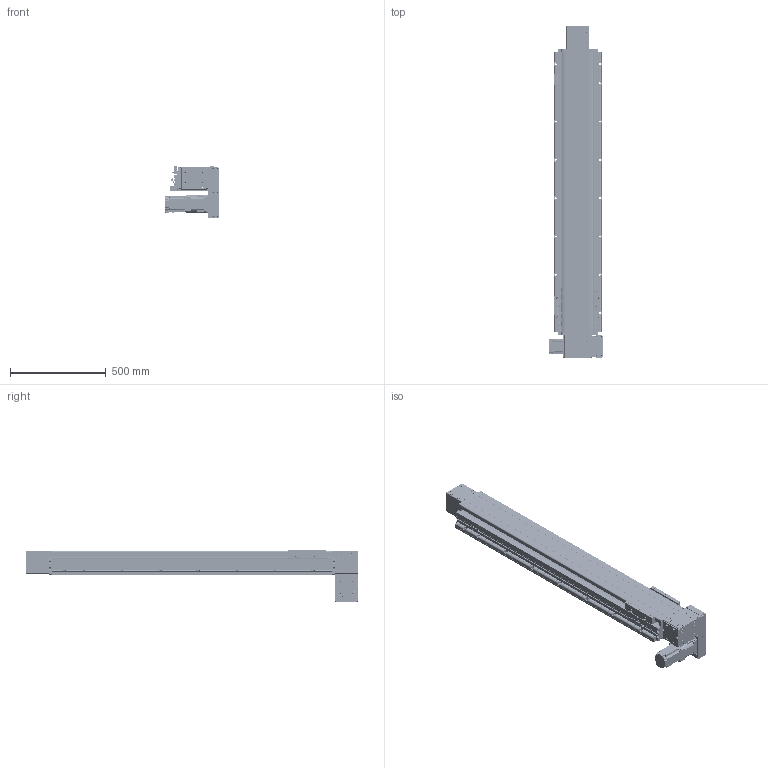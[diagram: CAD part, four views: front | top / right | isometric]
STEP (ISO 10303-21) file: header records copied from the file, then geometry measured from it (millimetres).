
FILE_DESCRIPTION(/* description */ (''),/* implementation_level */ '2;1');
FILE_NAME(/* name */ '\\192.168.0.160\disk1\HAN SHIN Master\B-설계부문\C-표준\B-2024년\BC02-표준도면\+로봇 개선표준도면\홈페이지 표준 도면\홈페이지 최종 작업 폴더\3D\HSB\HSB210\HSB210-DR7G-N-1200-L.stp',/* time_stamp */ '2025-01-06T18:17:24+09:00',/* author */ ('user'),/* organization */ (''),/* preprocessor_version */ 'ST-DEVELOPER v18.1',/* originating_system */ 'Autodesk Inventor 2022',/* authorisation */ '');
FILE_SCHEMA (('AUTOMOTIVE_DESIGN { 1 0 10303 214 3 1 1 }'));
Products named in the file (37): HSB210-DR7G-N-0500-L; HSB210 BASE - 2000ST; HSB210 FORNT HOUSUNG-Connecting Shaft; HSB210 FRONT COVER; REAR HOUSUNG-1-R1; HSB160 ARC COVER; HSB160 REAR SHAFT-2; REAR SHAFT--2; 6004ZZ; 6004ZZ Outer ring; 6004ZZ Shield1; 6004ZZ Inner ring; 6004ZZ Ball; 6004ZZ Shield2; UPCOVER; SIDE COVER; hsr_ftht_A-M6F_grease_nipple_joint; NIPPLE CAP(신규); TENSION PLATE; HG90STOPPER - 27L; HSB210 TABLE (TEST); HSB160 BEARING OVER; PGX90-H-1_3; hg-kr73_; HSB210 D MOTOR PLATE ASSY; HSB210 D BELT COVER-R1; HG200-R L-BELT COVER; HG200DACRYLCOVER001; HG200DACRYLCOVER003; HG200DACRYLCOVER002; 750W MOTOR PLATE; HSB210 END COVER-1; HSB160 SHAFT-1; 6308ZZ; HR200 SENSOR DOG; SENSOR BRK(EE-SX674A); EE_SX674A
Assembly tree (70 placements, depth 3):
  HSB210-DR7G-N-0500-L
    HSB210 BASE - 2000ST
    HSB210 FRONT COVER  x2
    HSB210 FORNT HOUSUNG-Connecting Shaft
    HSB160 ARC COVER  x4
    REAR HOUSUNG-1-R1
    HSB160 REAR SHAFT-2
    REAR SHAFT--2
    6004ZZ  x2
      6004ZZ Outer ring
      6004ZZ Shield1
      6004ZZ Inner ring
      6004ZZ Ball
      6004ZZ Shield2
    TENSION PLATE  x2
    UPCOVER
    SIDE COVER  x2
    HG90STOPPER - 27L  x4
    NIPPLE CAP(신규)  x4
    hsr_ftht_A-M6F_grease_nipple_joint  x4
    HSB210 TABLE (TEST)
    HSB160 BEARING OVER
    PGX90-H-1_3
    hg-kr73_
    HSB210 D MOTOR PLATE ASSY
      HSB210 D BELT COVER-R1
      HG200-R L-BELT COVER
      HG200DACRYLCOVER001
      HG200DACRYLCOVER002  x2
      HG200DACRYLCOVER003
      750W MOTOR PLATE
    HSB210 END COVER-1
    HSB160 SHAFT-1
    6308ZZ  x2
    SENSOR BRK(EE-SX674A)  x3
    EE_SX674A  x3
    HR200 SENSOR DOG
Bounding box: 284.5 x 1734 x 271.5 mm (x, y, z)
Volume: 17043863.1 mm3; surface area: 3779014.1 mm2
Topology: 131 solids, 133 shells, 8005 faces, 22269 edges, 14705 vertices
Faces by surface type: plane 6027, cylinder 1414, cone 396, sphere 84, torus 59, bspline 25
Full cylindrical faces by diameter (mm): 2.013 x2, 2.459 x50, 3 x8, 3.2 x4, 3.242 x58, 3.4 x22, 3.5 x6, 4.134 x2, 4.2 x16, 4.5 x36, 4.917 x36, 5 x56, 5.1 x1, 5.5 x13, 5.6 x4, 5.9 x4, 6 x15, 6.5 x9, 6.6 x8, 6.647 x46, 6.8 x9, 7 x20, 7.6 x4, 8 x13, 8.433 x2, 9 x46, 9.5 x7, 10 x5, 10.106 x16, 11 x20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
Entity records: 175059 total; most frequent: CARTESIAN_POINT 34054, ORIENTED_EDGE 29192, DIRECTION 27992, EDGE_CURVE 14596, LINE 11324, VECTOR 11324, VERTEX_POINT 9730, AXIS2_PLACEMENT_3D 8334
